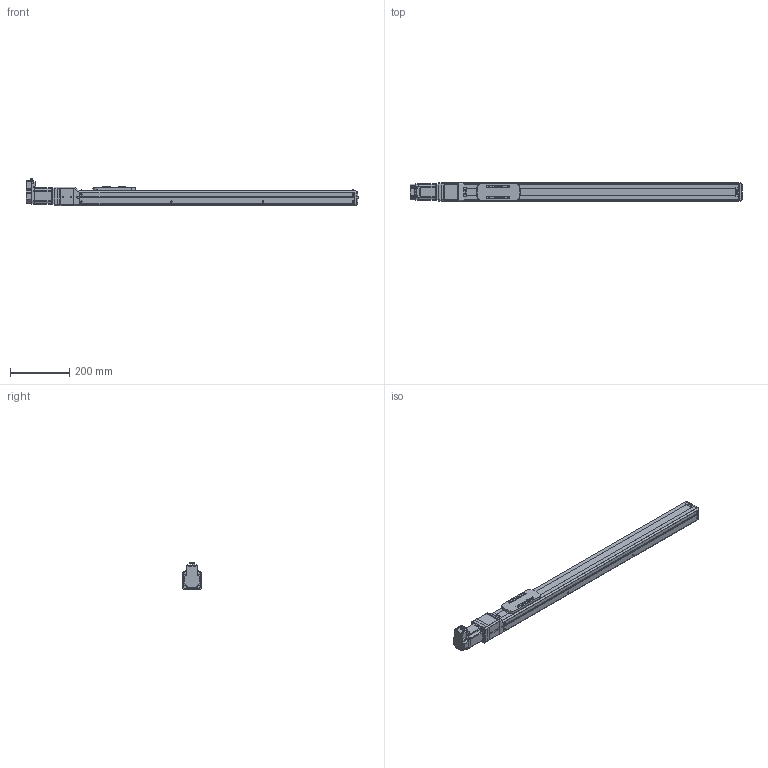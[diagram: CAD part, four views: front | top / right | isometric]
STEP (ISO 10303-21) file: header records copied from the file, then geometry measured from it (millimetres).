
FILE_DESCRIPTION(('FreeCAD Model'),'2;1');
FILE_NAME('Open CASCADE Shape Model','2023-08-02T10:57:45',('Author'),( ''),'Open CASCADE STEP processor 7.5','FreeCAD','Unknown');
FILE_SCHEMA(('AUTOMOTIVE_DESIGN { 1 0 10303 214 1 1 1 1 }'));
Length unit declared in the file: millimetre
Products named in the file (19): RSA1211; 1; 6; 5; 12; 2; 3; 9; 4; 11; 7; 13; 10; 8; Shapes; KSF6-20-0700-0-A0(0); KSF6---(Cover); KSF6-10-0700---(slider); KSF6-20-0700-A0 (0700A0No0)---(body)
Assembly tree (18 placements, depth 3):
  RSA1211
    1
    6
    5
    12
    2
    3
    9
    4
    11
    7
    13
    10
    8
    Shapes
    KSF6-20-0700-0-A0(0)
      KSF6---(Cover)
      KSF6-10-0700---(slider)
      KSF6-20-0700-A0 (0700A0No0)---(body)
Bounding box: 1123 x 66.4 x 93.17 mm (x, y, z)
Volume: 3501065.2 mm3; surface area: 380725.6 mm2
Topology: 17 solids, 17 shells, 1587 faces, 4237 edges, 2781 vertices
Faces by surface type: plane 1139, cylinder 310, cone 75, bspline 32, torus 27, revolution 4
Full cylindrical faces by diameter (mm): 2.113 x8, 2.6 x4, 3 x2, 3.242 x5, 4.134 x4, 4.5 x2, 5 x1, 5.5 x16, 6.5 x4, 9 x1, 9.5 x10, 12 x1, 15.5 x1, 17 x1, 44 x1, 50 x1
Entity records: 111772 total; most frequent: CARTESIAN_POINT 26342, DIRECTION 15886, LINE 10803, VECTOR 10803, ORIENTED_EDGE 8434, PCURVE 8434, DEFINITIONAL_REPRESENTATION 8434, EDGE_CURVE 4217
